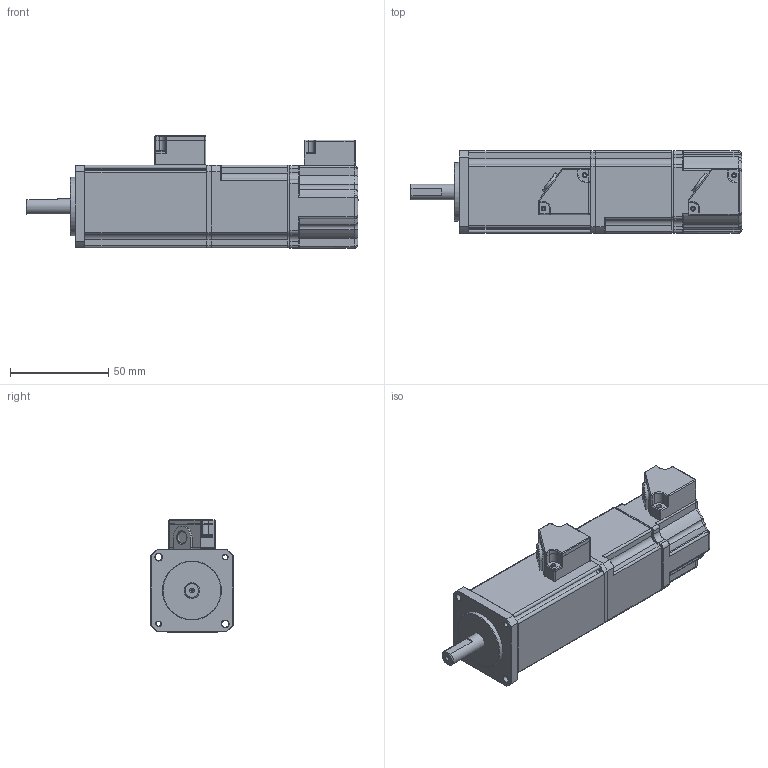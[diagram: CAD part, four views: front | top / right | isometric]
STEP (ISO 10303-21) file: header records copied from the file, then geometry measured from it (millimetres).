
FILE_DESCRIPTION( ( 'Unknown' ), '1' );
FILE_NAME( 'C:/Documents and Settings/chasechiu/桌面/KM/TSC06_3D_brake without connect/DTSC04101C2BGUD0K.stp', 'Unknown', ( 'Unknown' ), ( 'Unknown' ), 'PSStep 14.0', 'Unknown', ' ' );
FILE_SCHEMA( ( 'AUTOMOTIVE_DESIGN { 1 0 10303 214 1 1 1 1 }' ) );
Length unit declared in the file: millimetre
Products named in the file (16): 0S140W1203822-00; 0S152W6A15H01-00-oa1; 0S180WMC1B6LP-03; 0S871WHPPCN20-02-oa0; 0S331WMA0B10P-02; 0S200WM00T001-00; 0S211WM00T001-01; Assem1; 0S152W6A15H01-00; 0S871WHPPCN20-02; 0S362W42351B1-00; 0S301W0A0B10P-00; 0S302W0A1B10P-03; 0S363W42395B1-02; 0S861WB102211-02; 0987-
Assembly tree (15 placements, depth 4):
  Assem1
    0S152W6A15H01-00
    0S871WHPPCN20-02
    0S362W42351B1-00
    0S301W0A0B10P-00
    0S302W0A1B10P-03
    0S363W42395B1-02
    0S861WB102211-02
    0987-
    0S180WMC1B6LP-03
      0S871WHPPCN20-02-oa0
      0S331WMA0B10P-02
      0S140W1203822-00
        0S152W6A15H01-00-oa1
    0S200WM00T001-00
      0S211WM00T001-01
Bounding box: 169.1 x 42.07 x 57.21 mm (x, y, z)
Volume: 256769.4 mm3; surface area: 53786.7 mm2
Topology: 12 solids, 12 shells, 642 faces, 1629 edges, 992 vertices
Faces by surface type: cylinder 275, plane 251, cone 63, sphere 27, torus 18, bspline 8
Full cylindrical faces by diameter (mm): 1 x1, 1.567 x4, 1.713 x4, 2.013 x1, 2.2 x6, 2.3 x2, 2.459 x2, 2.5 x6, 3.5 x6, 5.8 x2, 8 x1, 18.5 x1, 30 x1, 37.5 x1, 38 x1, 38.1 x2, 38.5 x1
Entity records: 24521 total; most frequent: CARTESIAN_POINT 3884, DIRECTION 3361, ORIENTED_EDGE 2982, EDGE_CURVE 1491, AXIS2_PLACEMENT_3D 1262, VERTEX_POINT 959, LINE 837, VECTOR 837
